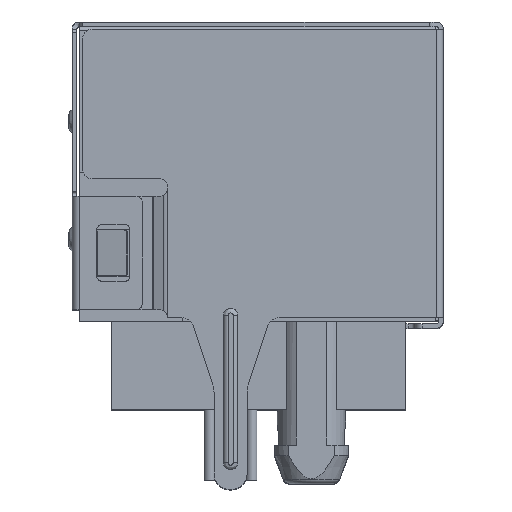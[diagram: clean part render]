
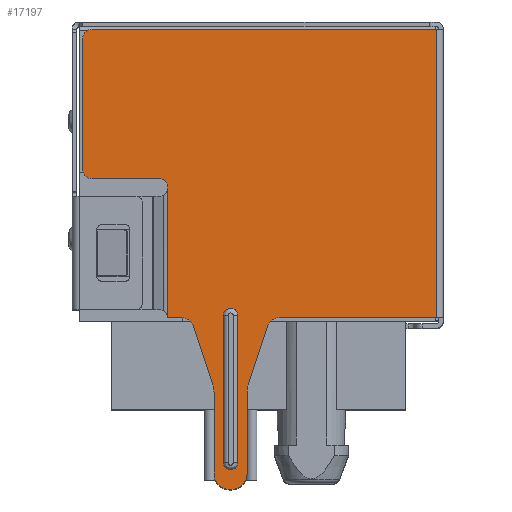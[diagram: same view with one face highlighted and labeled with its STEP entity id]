
A CAD part, top view. The second image highlights one B-rep face of the part: STEP entity #17197.
In plain terms, the highlighted planar face has unit normal (0, 0, 1).
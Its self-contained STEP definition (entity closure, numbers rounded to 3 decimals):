
#4455=DIRECTION('',(-0.316,0.949,0.));
#4456=VECTOR('',#4455,2.64);
#4457=CARTESIAN_POINT('',(-1.2,-6.704,8.1));
#4458=LINE('',#4457,#4456);
#4459=CARTESIAN_POINT('',(-2.509,-4.358,8.1));
#4460=DIRECTION('',(0.,0.,1.));
#4461=DIRECTION('',(0.949,0.316,0.));
#4462=AXIS2_PLACEMENT_3D('',#4459,#4460,#4461);
#4464=DIRECTION('',(-1.,0.,0.));
#4465=VECTOR('',#4464,0.61);
#4466=CARTESIAN_POINT('',(-2.509,-3.858,8.1));
#4467=LINE('',#4466,#4465);
#4468=DIRECTION('',(0.,1.,0.));
#4469=VECTOR('',#4468,0.05);
#4470=CARTESIAN_POINT('',(-3.118,1.642,8.1));
#4471=LINE('',#4470,#4469);
#4472=CARTESIAN_POINT('',(-3.468,1.692,8.1));
#4473=DIRECTION('',(0.,0.,1.));
#4474=DIRECTION('',(1.,0.,0.));
#4475=AXIS2_PLACEMENT_3D('',#4472,#4473,#4474);
#4477=DIRECTION('',(-1.,0.,0.));
#4478=VECTOR('',#4477,2.85);
#4479=CARTESIAN_POINT('',(-3.468,2.042,8.1));
#4480=LINE('',#4479,#4478);
#4481=CARTESIAN_POINT('',(-6.318,2.442,8.1));
#4482=DIRECTION('',(0.,0.,-1.));
#4483=DIRECTION('',(0.,-1.,0.));
#4484=AXIS2_PLACEMENT_3D('',#4481,#4482,#4483);
#4486=DIRECTION('',(0.,1.,0.));
#4487=VECTOR('',#4486,5.55);
#4488=CARTESIAN_POINT('',(-6.718,2.442,8.1));
#4489=LINE('',#4488,#4487);
#4490=CARTESIAN_POINT('',(-6.318,7.992,8.1));
#4491=DIRECTION('',(0.,0.,-1.));
#4492=DIRECTION('',(-1.,0.,0.));
#4493=AXIS2_PLACEMENT_3D('',#4490,#4491,#4492);
#4495=DIRECTION('',(1.,0.,0.));
#4496=VECTOR('',#4495,14.6);
#4497=CARTESIAN_POINT('',(-6.318,8.392,8.1));
#4498=LINE('',#4497,#4496);
#4499=DIRECTION('',(-1.,0.,0.));
#4500=VECTOR('',#4499,6.67);
#4501=CARTESIAN_POINT('',(8.282,-3.858,8.1));
#4502=LINE('',#4501,#4500);
#4503=CARTESIAN_POINT('',(1.612,-4.358,8.1));
#4504=DIRECTION('',(0.,0.,1.));
#4505=DIRECTION('',(0.,1.,0.));
#4506=AXIS2_PLACEMENT_3D('',#4503,#4504,#4505);
#4508=DIRECTION('',(-0.316,-0.949,0.));
#4509=VECTOR('',#4508,2.64);
#4510=CARTESIAN_POINT('',(1.138,-4.2,8.1));
#4511=LINE('',#4510,#4509);
#4512=CARTESIAN_POINT('',(1.252,-7.021,8.1));
#4513=DIRECTION('',(0.,0.,1.));
#4514=DIRECTION('',(-0.949,0.316,0.));
#4515=AXIS2_PLACEMENT_3D('',#4512,#4513,#4514);
#4517=DIRECTION('',(0.,-1.,0.));
#4518=VECTOR('',#4517,3.468);
#4519=CARTESIAN_POINT('',(0.252,-7.021,8.1));
#4520=LINE('',#4519,#4518);
#4521=CARTESIAN_POINT('',(-0.398,-10.488,8.1));
#4522=DIRECTION('',(0.,0.,-1.));
#4523=DIRECTION('',(1.,0.,0.));
#4524=AXIS2_PLACEMENT_3D('',#4521,#4522,#4523);
#4526=DIRECTION('',(-1.,0.,0.));
#4527=VECTOR('',#4526,0.1);
#4528=CARTESIAN_POINT('',(-0.398,-11.138,8.1));
#4529=LINE('',#4528,#4527);
#4530=CARTESIAN_POINT('',(-0.498,-10.488,8.1));
#4531=DIRECTION('',(0.,0.,-1.));
#4532=DIRECTION('',(0.,-1.,0.));
#4533=AXIS2_PLACEMENT_3D('',#4530,#4531,#4532);
#4535=DIRECTION('',(0.,1.,0.));
#4536=VECTOR('',#4535,3.468);
#4537=CARTESIAN_POINT('',(-1.148,-10.488,8.1));
#4538=LINE('',#4537,#4536);
#4539=CARTESIAN_POINT('',(-2.148,-7.021,8.1));
#4540=DIRECTION('',(0.,0.,1.));
#4541=DIRECTION('',(1.,0.,0.));
#4542=AXIS2_PLACEMENT_3D('',#4539,#4540,#4541);
#4544=CARTESIAN_POINT('',(-0.448,-10.008,
8.1));
#4545=DIRECTION('',(0.,0.,1.));
#4546=DIRECTION('',(-1.,0.,0.));
#4547=AXIS2_PLACEMENT_3D('',#4544,#4545,#4546);
#4549=DIRECTION('',(0.,1.,0.));
#4550=VECTOR('',#4549,6.25);
#4551=CARTESIAN_POINT('',(-0.148,-10.008,
8.1));
#4552=LINE('',#4551,#4550);
#4553=CARTESIAN_POINT('',(-0.448,-3.758,
8.1));
#4554=DIRECTION('',(0.,0.,1.));
#4555=DIRECTION('',(1.,0.,0.));
#4556=AXIS2_PLACEMENT_3D('',#4553,#4554,#4555);
#4558=DIRECTION('',(0.,-1.,0.));
#4559=VECTOR('',#4558,6.25);
#4560=CARTESIAN_POINT('',(-0.748,-3.758,
8.1));
#4561=LINE('',#4560,#4559);
#4711=DIRECTION('',(0.,1.,0.));
#4712=VECTOR('',#4711,12.25);
#4713=CARTESIAN_POINT('',(8.282,-3.858,8.1));
#4714=LINE('',#4713,#4712);
#5334=DIRECTION('',(0.,-1.,0.));
#5335=VECTOR('',#5334,5.5);
#5336=CARTESIAN_POINT('',(-3.118,1.642,8.1));
#5337=LINE('',#5336,#5335);
#11128=CARTESIAN_POINT('',(-6.318,8.392,8.1));
#11129=CARTESIAN_POINT('',(8.282,8.392,8.1));
#11130=VERTEX_POINT('',#11128);
#11131=VERTEX_POINT('',#11129);
#11136=CARTESIAN_POINT('',(-1.2,-6.704,8.1));
#11137=CARTESIAN_POINT('',(-2.034,-4.2,8.1));
#11138=VERTEX_POINT('',#11136);
#11139=VERTEX_POINT('',#11137);
#11140=CARTESIAN_POINT('',(-2.509,-3.858,8.1));
#11141=VERTEX_POINT('',#11140);
#11142=CARTESIAN_POINT('',(-3.118,-3.858,8.1));
#11143=VERTEX_POINT('',#11142);
#11144=CARTESIAN_POINT('',(-3.118,1.642,8.1));
#11145=VERTEX_POINT('',#11144);
#11146=CARTESIAN_POINT('',(-3.118,1.692,8.1));
#11147=VERTEX_POINT('',#11146);
#11148=CARTESIAN_POINT('',(-3.468,2.042,8.1));
#11149=VERTEX_POINT('',#11148);
#11150=CARTESIAN_POINT('',(-6.318,2.042,8.1));
#11151=VERTEX_POINT('',#11150);
#11152=CARTESIAN_POINT('',(-6.718,2.442,8.1));
#11153=VERTEX_POINT('',#11152);
#11154=CARTESIAN_POINT('',(-6.718,7.992,8.1));
#11155=VERTEX_POINT('',#11154);
#11156=CARTESIAN_POINT('',(8.282,-3.858,8.1));
#11157=VERTEX_POINT('',#11156);
#11158=CARTESIAN_POINT('',(1.612,-3.858,8.1));
#11159=VERTEX_POINT('',#11158);
#11160=CARTESIAN_POINT('',(1.138,-4.2,8.1));
#11161=VERTEX_POINT('',#11160);
#11162=CARTESIAN_POINT('',(0.303,-6.704,8.1));
#11163=VERTEX_POINT('',#11162);
#11164=CARTESIAN_POINT('',(0.252,-7.021,8.1));
#11165=VERTEX_POINT('',#11164);
#11166=CARTESIAN_POINT('',(0.252,-10.488,8.1));
#11167=VERTEX_POINT('',#11166);
#11168=CARTESIAN_POINT('',(-0.398,-11.138,8.1));
#11169=VERTEX_POINT('',#11168);
#11170=CARTESIAN_POINT('',(-0.498,-11.138,8.1));
#11171=VERTEX_POINT('',#11170);
#11172=CARTESIAN_POINT('',(-1.148,-10.488,8.1));
#11173=VERTEX_POINT('',#11172);
#11174=CARTESIAN_POINT('',(-1.148,-7.021,8.1));
#11175=VERTEX_POINT('',#11174);
#11176=CARTESIAN_POINT('',(-0.748,-10.008,
8.1));
#11177=CARTESIAN_POINT('',(-0.148,-10.008,
8.1));
#11178=VERTEX_POINT('',#11176);
#11179=VERTEX_POINT('',#11177);
#11180=CARTESIAN_POINT('',(-0.148,-3.758,
8.1));
#11181=VERTEX_POINT('',#11180);
#11182=CARTESIAN_POINT('',(-0.748,-3.758,
8.1));
#11183=VERTEX_POINT('',#11182);
#17137=CARTESIAN_POINT('',(-6.318,7.992,8.1));
#17138=DIRECTION('',(0.,0.,-1.));
#17139=DIRECTION('',(-1.,0.,0.));
#17140=AXIS2_PLACEMENT_3D('',#17137,#17138,#17139);
#17141=PLANE('',#17140);
#17143=ORIENTED_EDGE('',*,*,#17142,.T.);
#17145=ORIENTED_EDGE('',*,*,#17144,.T.);
#17147=ORIENTED_EDGE('',*,*,#17146,.T.);
#17149=ORIENTED_EDGE('',*,*,#17148,.F.);
#17151=ORIENTED_EDGE('',*,*,#17150,.T.);
#17153=ORIENTED_EDGE('',*,*,#17152,.T.);
#17155=ORIENTED_EDGE('',*,*,#17154,.T.);
#17157=ORIENTED_EDGE('',*,*,#17156,.T.);
#17159=ORIENTED_EDGE('',*,*,#17158,.T.);
#17161=ORIENTED_EDGE('',*,*,#17160,.T.);
#17162=ORIENTED_EDGE('',*,*,#17123,.T.);
#17164=ORIENTED_EDGE('',*,*,#17163,.F.);
#17166=ORIENTED_EDGE('',*,*,#17165,.T.);
#17168=ORIENTED_EDGE('',*,*,#17167,.T.);
#17170=ORIENTED_EDGE('',*,*,#17169,.T.);
#17172=ORIENTED_EDGE('',*,*,#17171,.T.);
#17174=ORIENTED_EDGE('',*,*,#17173,.T.);
#17176=ORIENTED_EDGE('',*,*,#17175,.T.);
#17178=ORIENTED_EDGE('',*,*,#17177,.T.);
#17180=ORIENTED_EDGE('',*,*,#17179,.T.);
#17182=ORIENTED_EDGE('',*,*,#17181,.T.);
#17184=ORIENTED_EDGE('',*,*,#17183,.T.);
#17185=EDGE_LOOP('',(#17143,#17145,#17147,#17149,#17151,#17153,#17155,#17157,
#17159,#17161,#17162,#17164,#17166,#17168,#17170,#17172,#17174,#17176,#17178,
#17180,#17182,#17184));
#17186=FACE_OUTER_BOUND('',#17185,.F.);
#17188=ORIENTED_EDGE('',*,*,#17187,.T.);
#17190=ORIENTED_EDGE('',*,*,#17189,.T.);
#17192=ORIENTED_EDGE('',*,*,#17191,.T.);
#17194=ORIENTED_EDGE('',*,*,#17193,.T.);
#17195=EDGE_LOOP('',(#17188,#17190,#17192,#17194));
#17196=FACE_BOUND('',#17195,.F.);
#17197=ADVANCED_FACE('',(#17186,#17196),#17141,.F.);
#4463=CIRCLE('',#4462,0.5);
#4476=CIRCLE('',#4475,0.35);
#4485=CIRCLE('',#4484,0.4);
#4494=CIRCLE('',#4493,0.4);
#4507=CIRCLE('',#4506,0.5);
#4516=CIRCLE('',#4515,1.);
#4525=CIRCLE('',#4524,0.65);
#4534=CIRCLE('',#4533,0.65);
#4543=CIRCLE('',#4542,1.);
#4548=CIRCLE('',#4547,0.3);
#4557=CIRCLE('',#4556,0.3);
#17123=EDGE_CURVE('',#11130,#11131,#4498,.T.);
#17142=EDGE_CURVE('',#11138,#11139,#4458,.T.);
#17144=EDGE_CURVE('',#11139,#11141,#4463,.T.);
#17146=EDGE_CURVE('',#11141,#11143,#4467,.T.);
#17148=EDGE_CURVE('',#11145,#11143,#5337,.T.);
#17150=EDGE_CURVE('',#11145,#11147,#4471,.T.);
#17152=EDGE_CURVE('',#11147,#11149,#4476,.T.);
#17154=EDGE_CURVE('',#11149,#11151,#4480,.T.);
#17156=EDGE_CURVE('',#11151,#11153,#4485,.T.);
#17158=EDGE_CURVE('',#11153,#11155,#4489,.T.);
#17160=EDGE_CURVE('',#11155,#11130,#4494,.T.);
#17163=EDGE_CURVE('',#11157,#11131,#4714,.T.);
#17165=EDGE_CURVE('',#11157,#11159,#4502,.T.);
#17167=EDGE_CURVE('',#11159,#11161,#4507,.T.);
#17169=EDGE_CURVE('',#11161,#11163,#4511,.T.);
#17171=EDGE_CURVE('',#11163,#11165,#4516,.T.);
#17173=EDGE_CURVE('',#11165,#11167,#4520,.T.);
#17175=EDGE_CURVE('',#11167,#11169,#4525,.T.);
#17177=EDGE_CURVE('',#11169,#11171,#4529,.T.);
#17179=EDGE_CURVE('',#11171,#11173,#4534,.T.);
#17181=EDGE_CURVE('',#11173,#11175,#4538,.T.);
#17183=EDGE_CURVE('',#11175,#11138,#4543,.T.);
#17187=EDGE_CURVE('',#11178,#11179,#4548,.T.);
#17189=EDGE_CURVE('',#11179,#11181,#4552,.T.);
#17191=EDGE_CURVE('',#11181,#11183,#4557,.T.);
#17193=EDGE_CURVE('',#11183,#11178,#4561,.T.);
